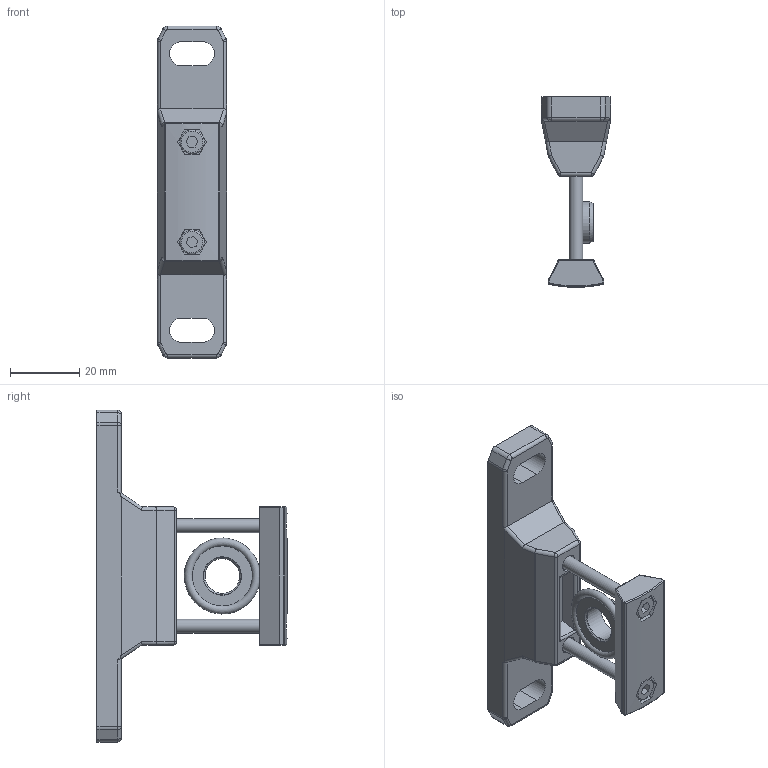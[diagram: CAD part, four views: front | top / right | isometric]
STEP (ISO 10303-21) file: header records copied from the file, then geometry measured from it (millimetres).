
FILE_DESCRIPTION( ( 'Unknown' ), '1' );
FILE_NAME( 'Y:/0-PLM共用區/支架組/220230040010001.stp', 'Unknown', ( 'Unknown' ), ( 'Unknown' ), 'PSStep 15.0.49', 'Unknown', ' ' );
FILE_SCHEMA( ( 'AUTOMOTIVE_DESIGN { 1 0 10303 214 1 1 1 1 }' ) );
Length unit declared in the file: millimetre
Products named in the file (5): Assem1; B00598; B00260; B00261; 3010104035300
Assembly tree (5 placements, depth 2):
  Assem1
    B00598
    B00260
    B00261
    3010104035300  x2
Bounding box: 20 x 55 x 96 mm (x, y, z)
Volume: 19977.6 mm3; surface area: 13197.1 mm2
Topology: 5 solids, 5 shells, 294 faces, 703 edges, 418 vertices
Faces by surface type: cylinder 129, plane 100, torus 27, sphere 16, bspline 16, cone 6
Full cylindrical faces by diameter (mm): 3.5 x2, 4 x2, 4.5 x2, 5 x2, 7 x2, 10 x1, 12 x1
Entity records: 10726 total; most frequent: CARTESIAN_POINT 1980, DIRECTION 1440, ORIENTED_EDGE 1258, EDGE_CURVE 629, AXIS2_PLACEMENT_3D 566, VERTEX_POINT 394, EDGE_LOOP 328, LINE 308
